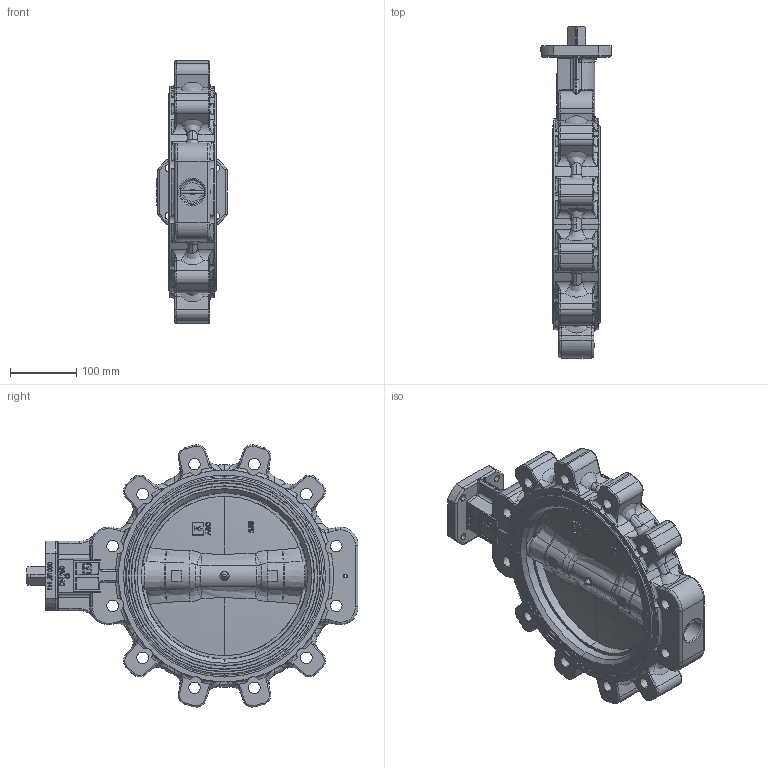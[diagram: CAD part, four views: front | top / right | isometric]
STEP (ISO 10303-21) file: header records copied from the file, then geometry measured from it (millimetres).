
FILE_DESCRIPTION (( 'STEP AP203' ), '1' );
FILE_NAME ('4832064_Axel-Larsson.step', '2023-10-04T14:04:12', ( '' ), ( '' ), 'SwSTEP 2.0', 'SolidWorks 2014', '' );
FILE_SCHEMA (( 'CONFIG_CONTROL_DESIGN' ));
Products named in the file (1): 4832064_Axel-Larsson
Bounding box: 106 x 501.83 x 396.59 mm (x, y, z)
Volume: 4715573.7 mm3; surface area: 488723.2 mm2
Topology: 5 solids, 16 shells, 1411 faces, 3588 edges, 2204 vertices
Faces by surface type: bspline 569, cylinder 414, plane 348, cone 80
Entity records: 74123 total; most frequent: CARTESIAN_POINT 44194, ORIENTED_EDGE 7044, DIRECTION 5088, EDGE_CURVE 3522, VERTEX_POINT 2204, AXIS2_PLACEMENT_3D 1924, EDGE_LOOP 1516, FACE_OUTER_BOUND 1411
